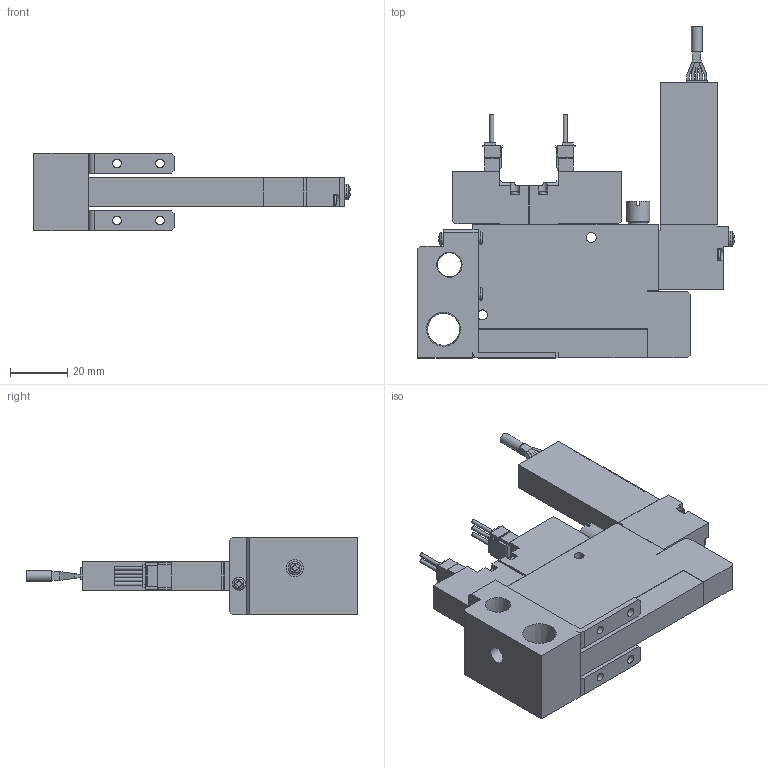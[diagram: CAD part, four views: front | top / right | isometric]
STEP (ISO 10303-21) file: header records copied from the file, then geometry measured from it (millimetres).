
FILE_DESCRIPTION(('STEP AP203'),'1');
FILE_NAME('V9C5WC101_3D.stp','2024-09-04T06:25:00',(' '),(' '),'Spatial InterOp 3D',' ',' ');
FILE_SCHEMA(('CONFIG_CONTROL_DESIGN'));
Length unit declared in the file: millimetre
Products named in the file (5): BSC1M※※V9C5WC101; Solenoid valve W; Pressure Sensor V9; Unit-C; BaseMC10R
Assembly tree (4 placements, depth 2):
  BSC1M※※V9C5WC101
    Solenoid valve W
    Pressure Sensor V9
    Unit-C
    BaseMC10R
Bounding box: 110.35 x 115.8 x 27 mm (x, y, z)
Volume: 77297.8 mm3; surface area: 28028.7 mm2
Topology: 4 solids, 4 shells, 506 faces, 1362 edges, 896 vertices
Faces by surface type: plane 374, cylinder 103, cone 11, sphere 9, torus 9
Full cylindrical faces by diameter (mm): 1.4 x5, 2.5 x2, 3 x8, 3.5 x8, 3.8 x1, 4 x1, 4.134 x2, 4.5 x6, 5.5 x2, 6 x1, 7 x2, 8 x1, 8.422 x1, 11.233 x1
Entity records: 15974 total; most frequent: CARTESIAN_POINT 3238, ORIENTED_EDGE 2536, DIRECTION 2515, EDGE_CURVE 1268, LINE 965, VECTOR 965, VERTEX_POINT 873, AXIS2_PLACEMENT_3D 775
